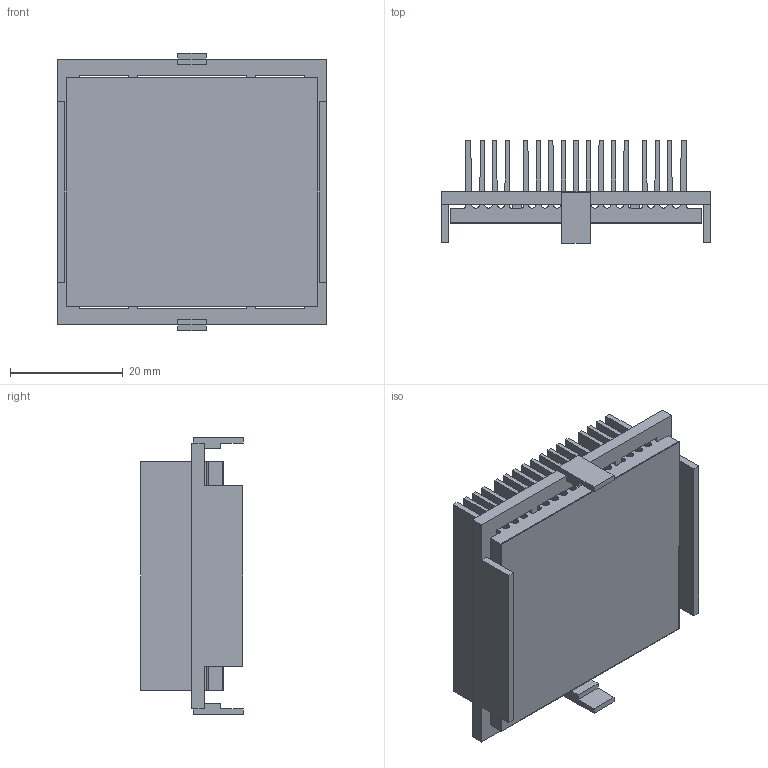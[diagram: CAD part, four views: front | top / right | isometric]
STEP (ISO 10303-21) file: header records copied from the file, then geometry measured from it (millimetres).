
FILE_DESCRIPTION (( 'STEP AP214' ), '1' );
FILE_NAME ('INH45001-15-2.6Y.STEP', '2023-02-20T22:16:14', ( '' ), ( '' ), 'SwSTEP 2.0', 'SolidWorks 2020', '' );
FILE_SCHEMA (( 'AUTOMOTIVE_DESIGN' ));
Length unit declared in the file: millimetre
Products named in the file (1): INH45001-15-2.6Y
Bounding box: 47.7 x 18.2 x 49.2 mm (x, y, z)
Volume: 13968.7 mm3; surface area: 27501.2 mm2
Topology: 3 solids, 3 shells, 172 faces, 498 edges, 332 vertices
Faces by surface type: plane 138, cylinder 34
Entity records: 7558 total; most frequent: CARTESIAN_POINT 1003, ORIENTED_EDGE 996, DIRECTION 912, EDGE_CURVE 498, LINE 430, VECTOR 430, VERTEX_POINT 332, AXIS2_PLACEMENT_3D 241
